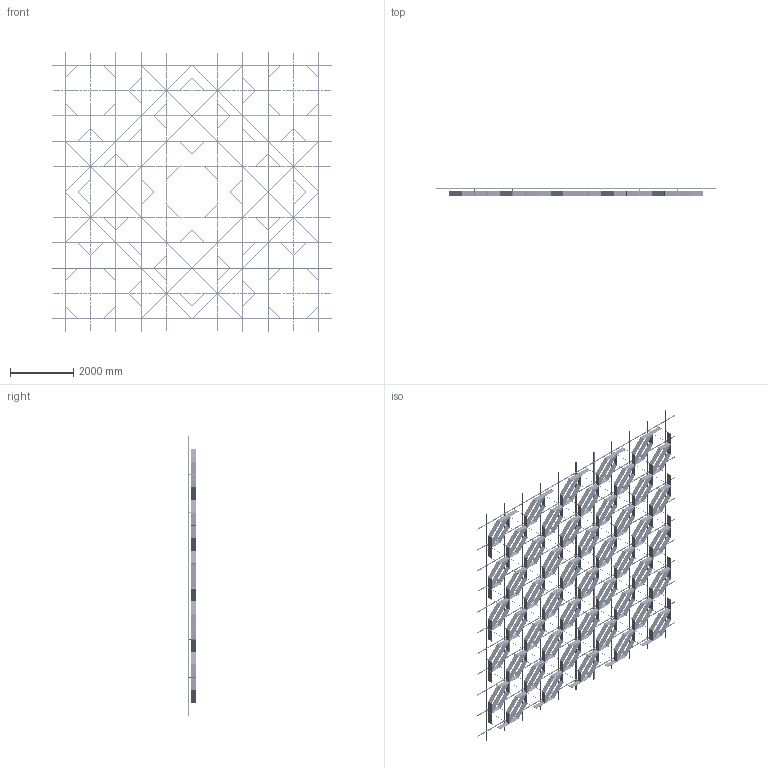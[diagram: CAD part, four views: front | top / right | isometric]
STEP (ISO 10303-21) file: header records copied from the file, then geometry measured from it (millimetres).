
FILE_DESCRIPTION (( 'STEP AP214' ), '1' );
FILE_NAME ('OPT_Var15.STEP', '2024-04-26T06:56:59', ( '' ), ( '' ), 'SwSTEP 2.0', 'SolidWorks 2020', '' );
FILE_SCHEMA (( 'AUTOMOTIVE_DESIGN' ));
Length unit declared in the file: millimetre
Products named in the file (5): OPT_Var15; SS.SEMA.2400 - Ñèìà-ïðîôèëü — îáðåçàí 1600; SS.SEMA.2400 - Ñèìà-ïðîôèëü; Varp15; Ñèñòåìà â çîíå 8000õ8000
Assembly tree (90 placements, depth 3):
  OPT_Var15
    Ñèñòåìà â çîíå 8000õ8000
      SS.SEMA.2400 - Ñèìà-ïðîôèëü  x66
      SS.SEMA.2400 - Ñèìà-ïðîôèëü — îáðåçàí 1600  x22
    Varp15
Bounding box: 8800 x 253 x 8800 mm (x, y, z)
Volume: 378417416.8 mm3; surface area: 134908209.4 mm2
Topology: 1728 solids, 1728 shells, 26180 faces, 66764 edges, 44040 vertices
Faces by surface type: cylinder 14098, plane 12082
Entity records: 269489 total; most frequent: CARTESIAN_POINT 84714, ORIENTED_EDGE 40376, DIRECTION 21714, EDGE_CURVE 20188, B_SPLINE_CURVE_WITH_KNOTS 14720, VERTEX_POINT 13448, AXIS2_PLACEMENT_3D 10608, EDGE_LOOP 10186
